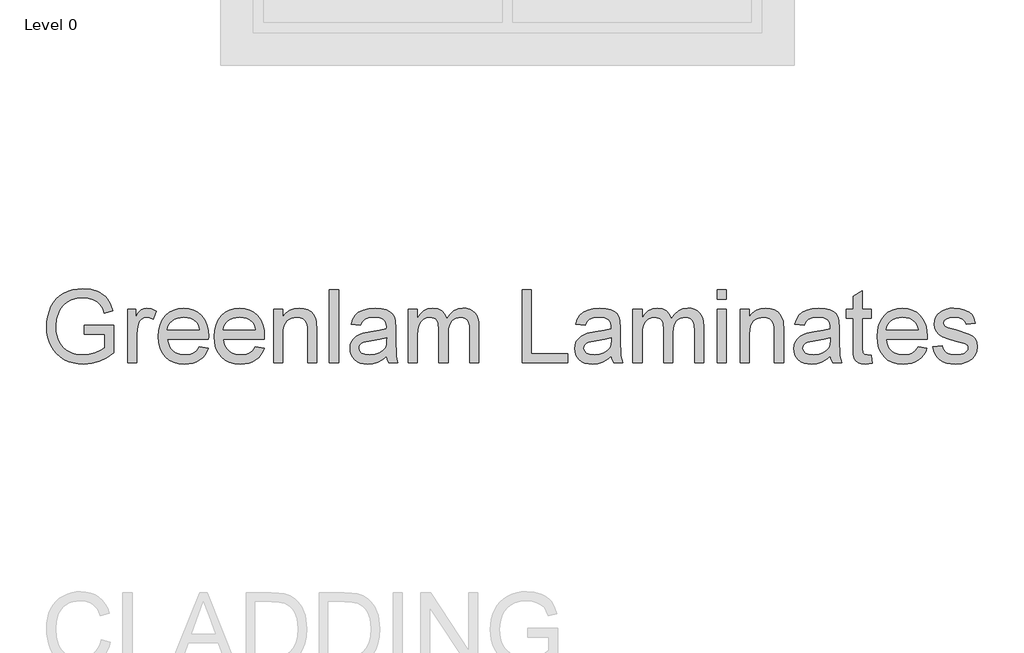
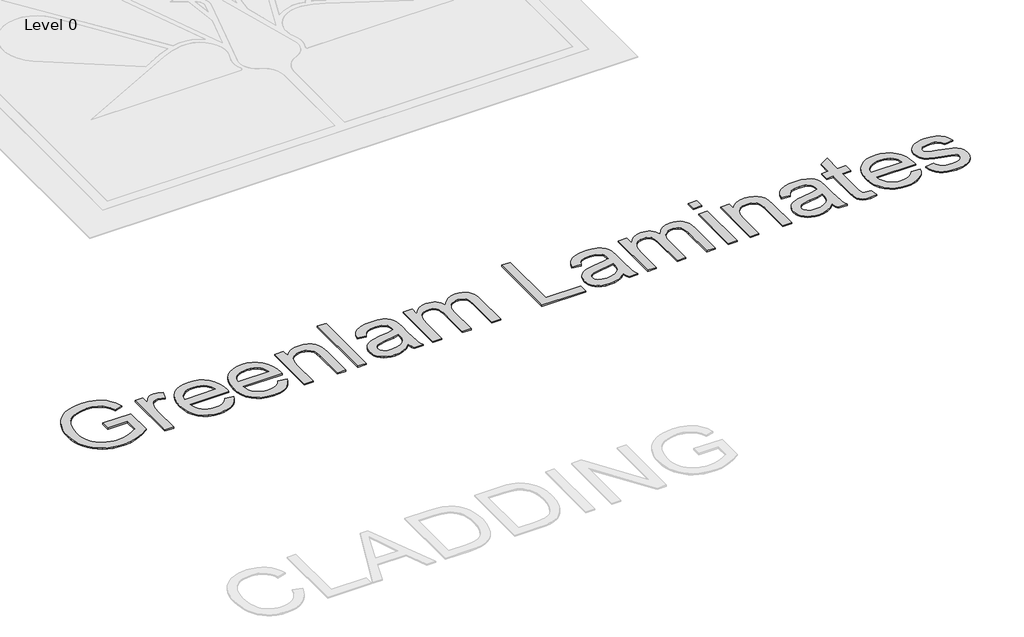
# One storey, part 8 of 8: 1 proxy.
"""IFC4 building model written with IfcOpenShell, lengths in millimetres."""

import ifcopenshell
import ifcopenshell.guid

model = None  # the IFC model being written
_history = None  # IfcOwnerHistory: only IFC2X3 demands one
_inside = {}  # id of a spatial element -> (the spatial element, [elements in it])
_under = {}  # id of a project, library or spatial element -> (it, [spatial elements below it])
_declared = {}  # id of a project -> (the project, [libraries it declares])
_typed = {}  # id of a type object -> (the type object, [elements of that type])
_made_of = {}  # id of a material, layer set ... -> (it, [elements and type objects made of it])


def new_model(schema):
    """Start an empty IFC model of exactly this schema.

    Asked for "IFC4X3", IfcOpenShell would pick the latest addendum, in which some entities
    have other attributes; the version numbers below select the first issue.
    IFC2X3 requires an IfcOwnerHistory on every rooted entity: one is made here for all.
    """
    global model, _history
    if schema == "IFC4X3":
        model = ifcopenshell.file(schema_version=(4, 3, 0, 0))
    else:
        model = ifcopenshell.file(schema=schema)
    _inside.clear()
    _under.clear()
    _declared.clear()
    _typed.clear()
    _made_of.clear()
    _history = None
    if model.schema == "IFC2X3":
        org = make("IfcOrganization", Name="unknown")
        user = make(
            "IfcPersonAndOrganization",
            ThePerson=make("IfcPerson", FamilyName="unknown"),
            TheOrganization=org,
        )
        app = make(
            "IfcApplication",
            ApplicationDeveloper=org,
            Version="unknown",
            ApplicationFullName="unknown",
            ApplicationIdentifier="unknown",
        )
        _history = make(
            "IfcOwnerHistory",
            OwningUser=user,
            OwningApplication=app,
            ChangeAction="ADDED",
            CreationDate=0,
        )
    return model


def make(cls, **values):
    """One entity of the class cls with the attributes given. An attribute that is None is left unset."""
    return model.create_entity(
        cls, **{name: value for name, value in values.items() if value is not None}
    )


def rooted(cls, **values):
    """An entity with a GlobalId (a new one), such as an element, a storey or a relation."""
    return make(cls, GlobalId=ifcopenshell.guid.new(), OwnerHistory=_history, **values)


def si_unit(unit_type, name, prefix=None):
    """IfcSIUnit, for example si_unit("LENGTHUNIT", "METRE", prefix="MILLI")."""
    return make("IfcSIUnit", UnitType=unit_type, Prefix=prefix, Name=name)


def assignment(units):
    """IfcUnitAssignment: the units of a project."""
    return None if units is None else make("IfcUnitAssignment", Units=units)


def point(xyz):
    """IfcCartesianPoint."""
    return None if xyz is None else make("IfcCartesianPoint", Coordinates=xyz)


def direction(xyz):
    """IfcDirection."""
    return None if xyz is None else make("IfcDirection", DirectionRatios=xyz)


def frame(location, z_axis=None, x_axis=None):
    """IfcAxis2Placement3D, a coordinate frame: its origin and axes. An axis left out is left unset."""
    return make(
        "IfcAxis2Placement3D",
        Location=point(location),
        Axis=direction(z_axis),
        RefDirection=direction(x_axis),
    )


def origin():
    """The frame at (0, 0, 0) with its axes left unset."""
    return frame((0.0, 0.0, 0.0))


def origin_with_axes():
    """The frame at (0, 0, 0) with the z axis (0, 0, 1) and the x axis (1, 0, 0) written out."""
    return frame((0.0, 0.0, 0.0), z_axis=(0.0, 0.0, 1.0), x_axis=(1.0, 0.0, 0.0))


def place(relative_to, where):
    """IfcLocalPlacement: puts the frame where relative to a parent placement (None: the world)."""
    return make(
        "IfcLocalPlacement", PlacementRelTo=relative_to, RelativePlacement=where
    )


def context(
    kind, dimensions, precision=None, world=None, true_north=None, identifier=None
):
    """IfcGeometricRepresentationContext, for example the 3D "Model" context."""
    return make(
        "IfcGeometricRepresentationContext",
        ContextIdentifier=identifier,
        ContextType=kind,
        CoordinateSpaceDimension=dimensions,
        Precision=precision,
        WorldCoordinateSystem=world,
        TrueNorth=true_north,
    )


def project(units=None, contexts=None):
    """IfcProject with its units and contexts."""
    return rooted(
        "IfcProject",
        Name="project",
        RepresentationContexts=contexts,
        UnitsInContext=assignment(units),
    )


def spatial(cls, under=None, at=None, **own):
    """A site, building, storey or space (cls), placed at a placement, below another one or the project."""
    s = rooted(cls, ObjectPlacement=at, **own)
    if under is not None:
        _under.setdefault(under.id(), (under, []))[1].append(s)
    return s


def polyline(points):
    """IfcPolyline through the points."""
    return make("IfcPolyline", Points=[point(p) for p in points])


def outline(outer, holes=None, kind="AREA"):
    """IfcArbitraryClosedProfileDef: a profile drawn as a closed curve; with holes, ...WithVoids."""
    if holes is None:
        return make("IfcArbitraryClosedProfileDef", ProfileType=kind, OuterCurve=outer)
    return make(
        "IfcArbitraryProfileDefWithVoids",
        ProfileType=kind,
        OuterCurve=outer,
        InnerCurves=holes,
    )


def extrude(swept, where, along, depth):
    """IfcExtrudedAreaSolid: the profile swept, set in the frame where, extruded along a direction by depth."""
    return make(
        "IfcExtrudedAreaSolid",
        SweptArea=swept,
        Position=where,
        ExtrudedDirection=direction(along),
        Depth=depth,
    )


def shape(context_of_items, identifier, shape_type, items):
    """IfcShapeRepresentation: the items that make up one representation, for example the "Body"."""
    return make(
        "IfcShapeRepresentation",
        ContextOfItems=context_of_items,
        RepresentationIdentifier=identifier,
        RepresentationType=shape_type,
        Items=items,
    )


def made_of(thing, what):
    """Note that an element or type object is made of a material, layer set ...; save() writes the relation."""
    if what is not None:
        _made_of.setdefault(what.id(), (what, []))[1].append(thing)
    return thing


def element(
    cls,
    number,
    at=None,
    inside=None,
    cuts=None,
    type_object=None,
    material=None,
    context=None,
    identifier="Body",
    shape_type=None,
    held_by="IfcProductDefinitionShape",
    body=None,
    shapes=None,
    **own,
):
    """One element of the class cls, such as IfcWall. Its Tag is "e" and its number.

    at: its placement. inside: the storey or other place that contains it. cuts: it is an
    opening in that element (IfcRelVoidsElement). A single representation is given by context,
    identifier, shape_type and body (its items); several are given by shapes. held_by: the class
    of the entity that holds the representations. save() writes the other relations.
    """
    e = rooted(cls, Tag="e%d" % number, ObjectPlacement=at, **own)
    if body is not None:
        shapes = [shape(context, identifier, shape_type, body)]
    if shapes is not None:
        e.Representation = make(held_by, Representations=shapes)
    if inside is not None:
        _inside.setdefault(inside.id(), (inside, []))[1].append(e)
    if cuts is not None:
        rooted(
            "IfcRelVoidsElement", RelatingBuildingElement=cuts, RelatedOpeningElement=e
        )
    if type_object is not None:
        _typed.setdefault(type_object.id(), (type_object, []))[1].append(e)
    return made_of(e, material)


def aggregate(whole, parts):
    """IfcRelAggregates: a whole, such as a stair, and the parts it consists of."""
    return rooted("IfcRelAggregates", RelatingObject=whole, RelatedObjects=parts)


def save(model, path):
    """Write the relations noted so far, then the file.

    IfcRelAggregates (storeys below a building ...), IfcRelContainedInSpatialStructure (elements
    in a storey), IfcRelDefinesByType, IfcRelAssociatesMaterial and IfcRelDeclares: one each for
    every whole, place, type object, material and project.
    """
    for whole, parts in _under.values():
        aggregate(whole, parts)
    for where, things in _inside.values():
        rooted(
            "IfcRelContainedInSpatialStructure",
            RelatedElements=things,
            RelatingStructure=where,
        )
    for kind, things in _typed.values():
        rooted("IfcRelDefinesByType", RelatedObjects=things, RelatingType=kind)
    for what, things in _made_of.values():
        rooted("IfcRelAssociatesMaterial", RelatedObjects=things, RelatingMaterial=what)
    for by, libraries in _declared.values():
        rooted("IfcRelDeclares", RelatingContext=by, RelatedDefinitions=libraries)
    model.write(path)


model = new_model("IFC4")

# Units and contexts
model_context = context("Model", 3, world=origin())
ifc_project = project(units=[si_unit("LENGTHUNIT", "METRE", prefix="MILLI")], contexts=[model_context])

# Site, building, storey
site = spatial("IfcSite", under=ifc_project)
building = spatial("IfcBuilding", under=site)
storey = spatial("IfcBuildingStorey", under=building, Name="Level 0", Elevation=0.0)

# Proxy
placement = place(None, origin())
element("IfcBuildingElementProxy", 1, Name="600mm Arial", ObjectType="600mm Arial", at=placement, inside=storey, context=model_context, shape_type="SweptSolid", body=[
    extrude(outline(polyline([(-10594.9298129, 2995.5724296), (-10594.9298129, 3070.9146622), (-10350.067557, 3070.9146622), (-10350.067557, 2845.6237284), (-10409.5724697, 2804.2370039), (-10470.9535806, 2774.5489269), (-10534.0637368, 2756.6698619), (-10598.7557857, 2750.7101736), (-10642.0325039, 2753.0784139), (-10683.2766741, 2760.183135), (-10722.4882962, 2772.0243367), (-10759.6673704, 2788.6020191), (-10793.6136815, 2809.6678618), (-10823.1270146, 2834.9735446), (-10848.2073696, 2864.5190673), (-10868.8547466, 2898.3044301), (-10884.9817735, 2935.2489794), (-10896.5010785, 2974.2720621), (-10903.4126615, 3015.373678), (-10905.7165225, 3058.5538272), (-10903.4218585, 3101.7385749), (-10896.5378667, 3143.4425975), (-10885.064547, 3183.6658952), (-10869.0018994, 3222.4084678), (-10848.6350324, 3257.9688612), (-10824.2490546, 3288.645621), (-10795.8439661, 3314.4387474), (-10763.4197667, 3335.3482403), (-10727.6800309, 3351.507457), (-10689.3283329, 3363.0497546), (-10648.3646727, 3369.9751331), (-10604.7890504, 3372.2835926), (-10542.7273578, 3366.9309096), (-10486.9196592, 3350.8728605), (-10462.0002525, 3339.1190308), (-10439.9227343, 3325.2682737), (-10420.6871045, 3309.3205892), (-10404.293363, 3291.2759773), (-10377.9346181, 3247.2588966), (-10358.749572, 3191.5799566), (-10428.2056927, 3172.0086345), (-10443.7119188, 3211.7214959), (-10462.5658711, 3241.6854844), (-10487.5082704, 3264.2734389), (-10521.2798375, 3281.8581982), (-10561.5445219, 3293.1705696), (-10605.9662728, 3296.94136), (-10657.9663928, 3292.876264), (-10702.4249319, 3280.6809758), (-10739.1763433, 3261.8822059), (-10768.0550799, 3238.0066644), (-10790.2199701, 3210.2867561), (-10806.8298422, 3179.9548856), (-10824.4881779, 3123.0803291), (-10830.3742899, 3061.6440359), (-10828.6038578, 3024.0235034), (-10823.2925615, 2989.5943472), (-10814.4404009, 2958.3565672), (-10802.0473762, 2930.3101636), (-10786.2744357, 2905.5609024), (-10767.2825277, 2884.2145496), (-10745.0716522, 2866.2711053), (-10719.6418093, 2851.7305695), (-10692.1840169, 2840.496373), (-10663.8892929, 2832.471947), (-10634.7576374, 2827.6572914), (-10604.7890504, 2826.0524062), (-10552.6049894, 2830.8900544), (-10501.7085154, 2845.4029992), (-10457.5074936, 2865.3973856), (-10425.4097896, 2886.679359), (-10425.4097896, 2995.5724296), (-10594.9298129, 2995.5724296)])), origin_with_axes(), (0.0, 0.0, 1.0), 10.0),
    extrude(outline(polyline([(-10237.054208, 2760.1279527), (-10237.054208, 3202.7635693), (-10171.1297545, 3202.7635693), (-10171.1297545, 3137.2805741), (-10146.7759664, 3175.245996), (-10124.3351647, 3197.6132213), (-10101.8207866, 3208.5393166), (-10077.2462693, 3212.1813483), (-10039.7223058, 3206.3688128), (-10001.6097311, 3188.9312062), (-10026.7728596, 3121.3880719), (-10053.2603632, 3132.9763548), (-10079.7478669, 3136.8391157), (-10102.2438509, 3133.1235076), (-10122.3486019, 3121.9766831), (-10138.590592, 3104.244771), (-10149.4982932, 3080.7738997), (-10158.6585549, 3038.6881994), (-10161.7119754, 2992.7765264), (-10161.7119754, 2760.1279527), (-10237.054208, 2760.1279527)])), origin_with_axes(), (0.0, 0.0, 1.0), 10.0),
    extrude(outline(polyline([(-9644.617043, 2891.9768597), (-9570.7463384, 2882.5590807), (-9582.0725053, 2852.9721712), (-9597.3626007, 2826.8985348), (-9616.6166246, 2804.3381714), (-9639.8345771, 2785.2910811), (-9666.7773347, 2770.1619341), (-9697.2057742, 2759.3554005), (-9731.1198956, 2752.8714803), (-9768.519699, 2750.7101736), (-9815.2683035, 2754.4395773), (-9856.9217424, 2765.6277885), (-9893.4800157, 2784.2748071), (-9924.9431233, 2810.3806332), (-9950.2442075, 2843.2186998), (-9968.3164106, 2882.06244), (-9979.1597324, 2926.9118537), (-9982.774173, 2977.766941), (-9979.1229442, 3030.3464752), (-9968.1692578, 3076.6904095), (-9949.9131138, 3116.798744), (-9924.3545121, 3150.6714788), (-9892.9741779, 3177.5820467), (-9857.2528362, 3196.8038809), (-9817.1904869, 3208.3369815), (-9772.7871301, 3212.1813483), (-9729.8139146, 3208.3461785), (-9690.9517803, 3196.8406691), (-9656.2007273, 3177.6648201), (-9625.5607557, 3150.8186315), (-9600.5493785, 3117.0194732), (-9582.6841091, 3076.9847151), (-9571.9649475, 3030.7143572), (-9568.3918936, 2978.2083994), (-9568.833352, 2957.9013133), (-9907.4319404, 2957.9013133), (-9903.0679402, 2927.8361572), (-9894.3905236, 2901.5050034), (-9881.3996907, 2878.9078519), (-9864.0954413, 2860.0447026), (-9843.4342688, 2845.1730729), (-9820.3726662, 2834.5504803), (-9794.9106336, 2828.1769247), (-9767.048171, 2826.0524062), (-9726.9490335, 2829.9887436), (-9693.1774664, 2841.7977556), (-9665.7334695, 2862.2152063), (-9644.617043, 2891.9768597)]), holes=[polyline([(-9907.4319404, 3033.2435459), (-9643.7341262, 3033.2435459), (-9653.9244575, 3073.0483778), (-9662.689246, 3088.7017567), (-9673.9004498, 3101.5224442), (-9694.4466593, 3116.973488), (-9717.82556, 3128.0099478), (-9744.0371522, 3134.6318238), (-9773.0814357, 3136.8391157), (-9799.5735379, 3135.0778807), (-9823.8675452, 3129.7941755), (-9845.9634575, 3120.9880003), (-9865.8612749, 3108.6593549), (-9882.558519, 3093.3784565), (-9895.0527112, 3075.7155222), (-9903.3438517, 3055.670552), (-9907.4319404, 3033.2435459)])]), origin_with_axes(), (0.0, 0.0, 1.0), 10.0),
    extrude(outline(polyline([(-9183.1458683, 2891.9768597), (-9109.2751636, 2882.5590807), (-9120.6013305, 2852.9721712), (-9135.891426, 2826.8985348), (-9155.1454499, 2804.3381714), (-9178.3634023, 2785.2910811), (-9205.3061599, 2770.1619341), (-9235.7345995, 2759.3554005), (-9269.6487209, 2752.8714803), (-9307.0485242, 2750.7101736), (-9353.7971288, 2754.4395773), (-9395.4505677, 2765.6277885), (-9432.0088409, 2784.2748071), (-9463.4719486, 2810.3806332), (-9488.7730328, 2843.2186998), (-9506.8452358, 2882.06244), (-9517.6885576, 2926.9118537), (-9521.3029982, 2977.766941), (-9517.6517694, 3030.3464752), (-9506.698083, 3076.6904095), (-9488.441939, 3116.798744), (-9462.8833374, 3150.6714788), (-9431.5030032, 3177.5820467), (-9395.7816615, 3196.8038809), (-9355.7193122, 3208.3369815), (-9311.3159554, 3212.1813483), (-9268.3427398, 3208.3461785), (-9229.4806055, 3196.8406691), (-9194.7295526, 3177.6648201), (-9164.0895809, 3150.8186315), (-9139.0782038, 3117.0194732), (-9121.2129344, 3076.9847151), (-9110.4937727, 3030.7143572), (-9106.9207189, 2978.2083994), (-9107.3621772, 2957.9013133), (-9445.9607656, 2957.9013133), (-9441.5967654, 2927.8361572), (-9432.9193489, 2901.5050034), (-9419.9285159, 2878.9078519), (-9402.6242666, 2860.0447026), (-9381.963094, 2845.1730729), (-9358.9014915, 2834.5504803), (-9333.4394589, 2828.1769247), (-9305.5769962, 2826.0524062), (-9265.4778588, 2829.9887436), (-9231.7062916, 2841.7977556), (-9204.2622948, 2862.2152063), (-9183.1458683, 2891.9768597)]), holes=[polyline([(-9445.9607656, 3033.2435459), (-9182.2629515, 3033.2435459), (-9192.4532827, 3073.0483778), (-9201.2180713, 3088.7017567), (-9212.4292751, 3101.5224442), (-9232.9754845, 3116.973488), (-9256.3543853, 3128.0099478), (-9282.5659775, 3134.6318238), (-9311.610261, 3136.8391157), (-9338.1023631, 3135.0778807), (-9362.3963704, 3129.7941755), (-9384.4922827, 3120.9880003), (-9404.3901002, 3108.6593549), (-9421.0873442, 3093.3784565), (-9433.5815365, 3075.7155222), (-9441.8726769, 3055.670552), (-9445.9607656, 3033.2435459)])]), origin_with_axes(), (0.0, 0.0, 1.0), 10.0),
    extrude(outline(polyline([(-9031.5784862, 2760.1279527), (-9031.5784862, 3202.7635693), (-8956.2362536, 3202.7635693), (-8956.2362536, 3140.9593941), (-8930.0614497, 3172.1189991), (-8898.6259332, 3194.3758598), (-8861.9297042, 3207.7299762), (-8819.9727626, 3212.1813483), (-8782.8350752, 3208.5944989), (-8748.8243847, 3197.8339505), (-8720.4606829, 3181.2424725), (-8700.2639614, 3160.1628342), (-8686.5603571, 3134.6502179), (-8677.6760069, 3104.7598058), (-8673.7028813, 3031.9191707), (-8673.7028813, 2760.1279527), (-8749.0451139, 2760.1279527), (-8749.0451139, 3021.7656276), (-8751.2156177, 3060.7243309), (-8757.727129, 3088.4258452), (-8769.7384762, 3108.2730788), (-8788.4084874, 3123.6689403), (-8812.3392112, 3133.5465719), (-8840.132696, 3136.8391157), (-8863.0103575, 3134.9905087), (-8884.2601413, 3129.4446876), (-8903.8820472, 3120.2016525), (-8921.8760753, 3107.2614033), (-8936.9086533, 3089.1524121), (-8947.646209, 3064.4031509), (-8954.0887425, 3033.0136196), (-8956.2362536, 2994.9838184), (-8956.2362536, 2760.1279527), (-9031.5784862, 2760.1279527)])), origin_with_axes(), (0.0, 0.0, 1.0), 10.0),
    extrude(outline(polyline([(-8570.1073115, 2760.1279527), (-8570.1073115, 3362.8658136), (-8494.7650789, 3362.8658136), (-8494.7650789, 2760.1279527), (-8570.1073115, 2760.1279527)])), origin_with_axes(), (0.0, 0.0, 1.0), 10.0),
    extrude(outline(polyline([(-8099.2183577, 2816.6346271), (-8135.2156109, 2785.7693277), (-8172.2797219, 2765.5726062), (-8211.2568193, 2754.4257817), (-8252.9930316, 2750.7101736), (-8286.5392711, 2752.9450567), (-8315.9560351, 2759.6497061), (-8341.2433238, 2770.8241217), (-8362.401137, 2786.4683035), (-8379.1075781, 2805.5889702), (-8391.0407503, 2827.1928404), (-8398.2006537, 2851.279914), (-8400.5872881, 2877.8501911), (-8396.9820446, 2909.0833725), (-8386.1663139, 2937.4470743), (-8369.4828654, 2961.727286), (-8348.2744684, 2980.709997), (-8323.3504632, 2995.0573948), (-8295.5201903, 3005.4316671), (-8230.3315007, 3016.7624325), (-8153.297011, 3028.6818092), (-8099.6598161, 3042.661325), (-8099.2183577, 3059.4367439), (-8104.4054938, 3093.0611583), (-8110.889414, 3105.5139638), (-8119.9669022, 3115.0605016), (-8135.6570693, 3124.5886453), (-8154.7685389, 3131.3944622), (-8203.2553859, 3136.8391157), (-8248.1369893, 3133.2154781), (-8279.4805353, 3122.3445651), (-8300.8544792, 3102.2398141), (-8315.8272764, 3070.9146622), (-8391.169509, 3080.3324413), (-8378.0913041, 3121.5352247), (-8358.5751643, 3153.9088403), (-8330.8000736, 3178.6672986), (-8292.9450163, 3197.0246101), (-8246.6470672, 3208.3921638), (-8193.5433012, 3212.1813483), (-8142.610039, 3208.8336222), (-8102.23499, 3198.7904437), (-8071.7927549, 3183.6888878), (-8050.6579343, 3165.1660294), (-8036.6416303, 3142.2653752), (-8027.554945, 3114.030432), (-8023.8761251, 3048.1059785), (-8023.8761251, 2954.3696461), (-8020.0501523, 2823.4772322), (-8014.3847696, 2791.1220108), (-8005.0405669, 2760.1279527), (-8080.3827995, 2760.1279527), (-8092.449329, 2786.3211507), (-8099.2183577, 2816.6346271)]), holes=[polyline([(-8099.2183577, 2967.3190924), (-8149.8389202, 2954.7743163), (-8220.7665689, 2944.2161031), (-8285.5873764, 2932.0024208), (-8302.4547659, 2923.6514995), (-8314.9443596, 2912.1367931), (-8322.6698815, 2898.3412183), (-8325.2450555, 2883.1476919), (-8319.6348551, 2860.7436784), (-8302.8042538, 2842.3863668), (-8275.1211337, 2830.1358964), (-8236.9533767, 2826.0524062), (-8196.4863572, 2830.5589606), (-8160.7282273, 2844.078624), (-8131.739126, 2863.999434), (-8111.5791927, 2887.7094286), (-8102.6396602, 2912.1367931), (-8099.6598161, 2945.9819366), (-8099.2183577, 2967.3190924)])]), origin_with_axes(), (0.0, 0.0, 1.0), 10.0),
    extrude(outline(polyline([(-7920.2805552, 2760.1279527), (-7920.2805552, 3202.7635693), (-7844.9383226, 3202.7635693), (-7844.9383226, 3129.9229342), (-7822.2767917, 3163.3818017), (-7793.1405377, 3189.5933938), (-7758.5228419, 3206.5343597), (-7719.4169858, 3212.1813483), (-7677.5152266, 3206.4239951), (-7659.6821469, 3199.2273036), (-7643.9276004, 3189.1519354), (-7618.8380484, 3161.5056035), (-7602.4305114, 3124.6254335), (-7574.9681204, 3162.9311462), (-7543.6429685, 3190.2923696), (-7508.4550557, 3206.7091037), (-7469.4043819, 3212.1813483), (-7439.2426568, 3209.9050785), (-7412.7689488, 3203.076269), (-7389.9832577, 3191.6949197), (-7370.8855836, 3175.7610308), (-7355.7886262, 3155.0906612), (-7345.0050853, 3129.4998699), (-7338.5349607, 3098.988657), (-7336.3782525, 3063.5570223), (-7336.3782525, 2760.1279527), (-7411.7204851, 2760.1279527), (-7411.7204851, 3031.1834067), (-7413.4679246, 3068.7625525), (-7418.710243, 3094.0912279), (-7428.5326923, 3111.436864), (-7444.0205243, 3125.0668919), (-7463.9413343, 3133.8960598), (-7487.0627177, 3136.8391157), (-7508.413669, 3134.9537205), (-7527.8792251, 3129.2975348), (-7545.4593859, 3119.8705587), (-7561.1541515, 3106.6727921), (-7574.062211, 3089.317959), (-7583.2822535, 3067.4197832), (-7588.814279, 3040.9782648), (-7590.6582875, 3009.9934038), (-7590.6582875, 2760.1279527), (-7666.0005201, 2760.1279527), (-7666.0005201, 3039.5711162), (-7670.3599218, 3082.1718512), (-7675.8091738, 3098.8920879), (-7683.4381267, 3112.5589041), (-7693.5502831, 3123.1814967), (-7706.4491455, 3130.7690628), (-7722.1347141, 3135.3216025), (-7740.6069888, 3136.8391157), (-7769.6328782, 3132.7924138), (-7796.3778992, 3120.6523079), (-7818.4508189, 3100.7131038), (-7833.4604044, 3073.269107), (-7842.068843, 3035.1933205), (-7844.9383226, 2983.3587473), (-7844.9383226, 2760.1279527), (-7920.2805552, 2760.1279527)])), origin_with_axes(), (0.0, 0.0, 1.0), 10.0),
    extrude(outline(polyline([(-6978.5026476, 2760.1279527), (-6978.5026476, 3362.8658136), (-6903.1604149, 3362.8658136), (-6903.1604149, 2835.4701853), (-6601.7914845, 2835.4701853), (-6601.7914845, 2760.1279527), (-6978.5026476, 2760.1279527)])), origin_with_axes(), (0.0, 0.0, 1.0), 10.0),
    extrude(outline(polyline([(-6243.9158796, 2816.6346271), (-6279.9131328, 2785.7693277), (-6316.9772438, 2765.5726062), (-6355.9543412, 2754.4257817), (-6397.6905536, 2750.7101736), (-6431.236793, 2752.9450567), (-6460.653557, 2759.6497061), (-6485.9408457, 2770.8241217), (-6507.0986589, 2786.4683035), (-6523.8051, 2805.5889702), (-6535.7382723, 2827.1928404), (-6542.8981756, 2851.279914), (-6545.28481, 2877.8501911), (-6541.6795665, 2909.0833725), (-6530.8638358, 2937.4470743), (-6514.1803873, 2961.727286), (-6492.9719903, 2980.709997), (-6468.0479852, 2995.0573948), (-6440.2177122, 3005.4316671), (-6375.0290227, 3016.7624325), (-6297.9945329, 3028.6818092), (-6244.357338, 3042.661325), (-6243.9158796, 3059.4367439), (-6249.1030157, 3093.0611583), (-6255.5869359, 3105.5139638), (-6264.6644241, 3115.0605016), (-6280.3545912, 3124.5886453), (-6299.4660609, 3131.3944622), (-6347.9529078, 3136.8391157), (-6392.8345112, 3133.2154781), (-6424.1780572, 3122.3445651), (-6445.5520011, 3102.2398141), (-6460.5247984, 3070.9146622), (-6535.867031, 3080.3324413), (-6522.788826, 3121.5352247), (-6503.2726862, 3153.9088403), (-6475.4975956, 3178.6672986), (-6437.6425383, 3197.0246101), (-6391.3445892, 3208.3921638), (-6338.2408232, 3212.1813483), (-6287.3075609, 3208.8336222), (-6246.932512, 3198.7904437), (-6216.4902768, 3183.6888878), (-6195.3554562, 3165.1660294), (-6181.3391522, 3142.2653752), (-6172.2524669, 3114.030432), (-6168.573647, 3048.1059785), (-6168.573647, 2954.3696461), (-6164.7476742, 2823.4772322), (-6159.0822915, 2791.1220108), (-6149.7380888, 2760.1279527), (-6225.0803214, 2760.1279527), (-6237.1468509, 2786.3211507), (-6243.9158796, 2816.6346271)]), holes=[polyline([(-6243.9158796, 2967.3190924), (-6294.5364421, 2954.7743163), (-6365.4640908, 2944.2161031), (-6430.2848983, 2932.0024208), (-6447.1522878, 2923.6514995), (-6459.6418816, 2912.1367931), (-6467.3674035, 2898.3412183), (-6469.9425774, 2883.1476919), (-6464.332377, 2860.7436784), (-6447.5017757, 2842.3863668), (-6419.8186556, 2830.1358964), (-6381.6508986, 2826.0524062), (-6341.1838791, 2830.5589606), (-6305.4257492, 2844.078624), (-6276.436648, 2863.999434), (-6256.2767146, 2887.7094286), (-6247.3371821, 2912.1367931), (-6244.357338, 2945.9819366), (-6243.9158796, 2967.3190924)])]), origin_with_axes(), (0.0, 0.0, 1.0), 10.0),
    extrude(outline(polyline([(-6064.9780771, 2760.1279527), (-6064.9780771, 3202.7635693), (-5989.6358445, 3202.7635693), (-5989.6358445, 3129.9229342), (-5966.9743136, 3163.3818017), (-5937.8380596, 3189.5933938), (-5903.2203639, 3206.5343597), (-5864.1145078, 3212.1813483), (-5822.2127485, 3206.4239951), (-5804.3796688, 3199.2273036), (-5788.6251224, 3189.1519354), (-5763.5355703, 3161.5056035), (-5747.1280333, 3124.6254335), (-5719.6656424, 3162.9311462), (-5688.3404905, 3190.2923696), (-5653.1525776, 3206.7091037), (-5614.1019038, 3212.1813483), (-5583.9401788, 3209.9050785), (-5557.4664707, 3203.076269), (-5534.6807796, 3191.6949197), (-5515.5831055, 3175.7610308), (-5500.4861482, 3155.0906612), (-5489.7026072, 3129.4998699), (-5483.2324826, 3098.988657), (-5481.0757744, 3063.5570223), (-5481.0757744, 2760.1279527), (-5556.418007, 2760.1279527), (-5556.418007, 3031.1834067), (-5558.1654465, 3068.7625525), (-5563.4077649, 3094.0912279), (-5573.2302142, 3111.436864), (-5588.7180462, 3125.0668919), (-5608.6388562, 3133.8960598), (-5631.7602396, 3136.8391157), (-5653.1111909, 3134.9537205), (-5672.576747, 3129.2975348), (-5690.1569078, 3119.8705587), (-5705.8516734, 3106.6727921), (-5718.759733, 3089.317959), (-5727.9797755, 3067.4197832), (-5733.511801, 3040.9782648), (-5735.3558095, 3009.9934038), (-5735.3558095, 2760.1279527), (-5810.6980421, 2760.1279527), (-5810.6980421, 3039.5711162), (-5815.0574437, 3082.1718512), (-5820.5066958, 3098.8920879), (-5828.1356486, 3112.5589041), (-5838.247805, 3123.1814967), (-5851.1466674, 3130.7690628), (-5866.832236, 3135.3216025), (-5885.3045107, 3136.8391157), (-5914.3304001, 3132.7924138), (-5941.0754212, 3120.6523079), (-5963.1483409, 3100.7131038), (-5978.1579263, 3073.269107), (-5986.766365, 3035.1933205), (-5989.6358445, 2983.3587473), (-5989.6358445, 2760.1279527), (-6064.9780771, 2760.1279527)])), origin_with_axes(), (0.0, 0.0, 1.0), 10.0),
    extrude(outline(polyline([(-5368.0624255, 3287.523581), (-5368.0624255, 3362.8658136), (-5292.7201929, 3362.8658136), (-5292.7201929, 3287.523581), (-5368.0624255, 3287.523581)])), origin_with_axes(), (0.0, 0.0, 1.0), 10.0),
    extrude(outline(polyline([(-5368.0624255, 2760.1279527), (-5368.0624255, 3202.7635693), (-5292.7201929, 3202.7635693), (-5292.7201929, 2760.1279527), (-5368.0624255, 2760.1279527)])), origin_with_axes(), (0.0, 0.0, 1.0), 10.0),
    extrude(outline(polyline([(-5179.7068439, 2760.1279527), (-5179.7068439, 3202.7635693), (-5104.3646113, 3202.7635693), (-5104.3646113, 3140.9593941), (-5078.1898074, 3172.1189991), (-5046.7542909, 3194.3758598), (-5010.0580619, 3207.7299762), (-4968.1011203, 3212.1813483), (-4930.9634329, 3208.5944989), (-4896.9527424, 3197.8339505), (-4868.5890406, 3181.2424725), (-4848.3923191, 3160.1628342), (-4834.6887148, 3134.6502179), (-4825.8043646, 3104.7598058), (-4821.831239, 3031.9191707), (-4821.831239, 2760.1279527), (-4897.1734716, 2760.1279527), (-4897.1734716, 3021.7656276), (-4899.3439754, 3060.7243309), (-4905.8554867, 3088.4258452), (-4917.8668339, 3108.2730788), (-4936.5368451, 3123.6689403), (-4960.4675689, 3133.5465719), (-4988.2610537, 3136.8391157), (-5011.1387152, 3134.9905087), (-5032.388499, 3129.4446876), (-5052.0104049, 3120.2016525), (-5070.004433, 3107.2614033), (-5085.037011, 3089.1524121), (-5095.7745667, 3064.4031509), (-5102.2171002, 3033.0136196), (-5104.3646113, 2994.9838184), (-5104.3646113, 2760.1279527), (-5179.7068439, 2760.1279527)])), origin_with_axes(), (0.0, 0.0, 1.0), 10.0),
    extrude(outline(polyline([(-4435.7022969, 2816.6346271), (-4471.6995501, 2785.7693277), (-4508.7636611, 2765.5726062), (-4547.7407585, 2754.4257817), (-4589.4769709, 2750.7101736), (-4623.0232103, 2752.9450567), (-4652.4399744, 2759.6497061), (-4677.727263, 2770.8241217), (-4698.8850762, 2786.4683035), (-4715.5915174, 2805.5889702), (-4727.5246896, 2827.1928404), (-4734.6845929, 2851.279914), (-4737.0712273, 2877.8501911), (-4733.4659838, 2909.0833725), (-4722.6502531, 2937.4470743), (-4705.9668047, 2961.727286), (-4684.7584076, 2980.709997), (-4659.8344025, 2995.0573948), (-4632.0041295, 3005.4316671), (-4566.81544, 3016.7624325), (-4489.7809502, 3028.6818092), (-4436.1437553, 3042.661325), (-4435.7022969, 3059.4367439), (-4440.889433, 3093.0611583), (-4447.3733532, 3105.5139638), (-4456.4508414, 3115.0605016), (-4472.1410085, 3124.5886453), (-4491.2524782, 3131.3944622), (-4539.7393251, 3136.8391157), (-4584.6209285, 3133.2154781), (-4615.9644745, 3122.3445651), (-4637.3384185, 3102.2398141), (-4652.3112157, 3070.9146622), (-4727.6534483, 3080.3324413), (-4714.5752433, 3121.5352247), (-4695.0591035, 3153.9088403), (-4667.2840129, 3178.6672986), (-4629.4289556, 3197.0246101), (-4583.1310065, 3208.3921638), (-4530.0272405, 3212.1813483), (-4479.0939782, 3208.8336222), (-4438.7189293, 3198.7904437), (-4408.2766942, 3183.6888878), (-4387.1418735, 3165.1660294), (-4373.1255695, 3142.2653752), (-4364.0388842, 3114.030432), (-4360.3600643, 3048.1059785), (-4360.3600643, 2954.3696461), (-4356.5340915, 2823.4772322), (-4350.8687088, 2791.1220108), (-4341.5245061, 2760.1279527), (-4416.8667387, 2760.1279527), (-4428.9332682, 2786.3211507), (-4435.7022969, 2816.6346271)]), holes=[polyline([(-4435.7022969, 2967.3190924), (-4486.3228594, 2954.7743163), (-4557.2505081, 2944.2161031), (-4622.0713157, 2932.0024208), (-4638.9387051, 2923.6514995), (-4651.4282989, 2912.1367931), (-4659.1538208, 2898.3412183), (-4661.7289947, 2883.1476919), (-4656.1187943, 2860.7436784), (-4639.288193, 2842.3863668), (-4611.6050729, 2830.1358964), (-4573.4373159, 2826.0524062), (-4532.9702964, 2830.5589606), (-4497.2121665, 2844.078624), (-4468.2230653, 2863.999434), (-4448.0631319, 2887.7094286), (-4439.1235995, 2912.1367931), (-4436.1437553, 2945.9819366), (-4435.7022969, 2967.3190924)])]), origin_with_axes(), (0.0, 0.0, 1.0), 10.0),
    extrude(outline(polyline([(-4096.6622501, 2822.9621974), (-4087.2444711, 2757.9206607), (-4143.6039927, 2750.7101736), (-4179.7667929, 2753.8371706), (-4206.7325431, 2763.2181614), (-4225.7888304, 2777.6759238), (-4238.2232419, 2796.0332354), (-4245.065847, 2827.5607224), (-4247.3467154, 2881.5290111), (-4247.3467154, 3127.4213367), (-4303.8533898, 3127.4213367), (-4303.8533898, 3202.7635693), (-4247.3467154, 3202.7635693), (-4247.3467154, 3310.3322647), (-4172.0044828, 3354.6252569), (-4172.0044828, 3202.7635693), (-4096.6622501, 3202.7635693), (-4096.6622501, 3127.4213367), (-4172.0044828, 3127.4213367), (-4172.0044828, 2883.7363031), (-4168.0313572, 2844.8879644), (-4155.1554874, 2831.1291777), (-4144.2845744, 2827.3215991), (-4129.4773241, 2826.0524062), (-4096.6622501, 2822.9621974)])), origin_with_axes(), (0.0, 0.0, 1.0), 10.0),
    extrude(outline(polyline([(-3711.4162248, 2891.9768597), (-3637.5455202, 2882.5590807), (-3648.8716871, 2852.9721712), (-3664.1617825, 2826.8985348), (-3683.4158064, 2804.3381714), (-3706.6337589, 2785.2910811), (-3733.5765165, 2770.1619341), (-3764.004956, 2759.3554005), (-3797.9190774, 2752.8714803), (-3835.3188808, 2750.7101736), (-3882.0674853, 2754.4395773), (-3923.7209242, 2765.6277885), (-3960.2791975, 2784.2748071), (-3991.7423051, 2810.3806332), (-4017.0433893, 2843.2186998), (-4035.1155923, 2882.06244), (-4045.9589142, 2926.9118537), (-4049.5733548, 2977.766941), (-4045.922126, 3030.3464752), (-4034.9684396, 3076.6904095), (-4016.7122955, 3116.798744), (-3991.1536939, 3150.6714788), (-3959.7733597, 3177.5820467), (-3924.052018, 3196.8038809), (-3883.9896687, 3208.3369815), (-3839.5863119, 3212.1813483), (-3796.6130964, 3208.3461785), (-3757.7509621, 3196.8406691), (-3722.9999091, 3177.6648201), (-3692.3599374, 3150.8186315), (-3667.3485603, 3117.0194732), (-3649.4832909, 3076.9847151), (-3638.7641293, 3030.7143572), (-3635.1910754, 2978.2083994), (-3635.6325338, 2957.9013133), (-3974.2311221, 2957.9013133), (-3969.867122, 2927.8361572), (-3961.1897054, 2901.5050034), (-3948.1988725, 2878.9078519), (-3930.8946231, 2860.0447026), (-3910.2334506, 2845.1730729), (-3887.171848, 2834.5504803), (-3861.7098154, 2828.1769247), (-3833.8473528, 2826.0524062), (-3793.7482153, 2829.9887436), (-3759.9766482, 2841.7977556), (-3732.5326513, 2862.2152063), (-3711.4162248, 2891.9768597)]), holes=[polyline([(-3974.2311221, 3033.2435459), (-3710.533308, 3033.2435459), (-3720.7236393, 3073.0483778), (-3729.4884278, 3088.7017567), (-3740.6996316, 3101.5224442), (-3761.245841, 3116.973488), (-3784.6247418, 3128.0099478), (-3810.836334, 3134.6318238), (-3839.8806175, 3136.8391157), (-3866.3727197, 3135.0778807), (-3890.6667269, 3129.7941755), (-3912.7626393, 3120.9880003), (-3932.6604567, 3108.6593549), (-3949.3577007, 3093.3784565), (-3961.851893, 3075.7155222), (-3970.1430335, 3055.670552), (-3974.2311221, 3033.2435459)])]), origin_with_axes(), (0.0, 0.0, 1.0), 10.0),
    extrude(outline(polyline([(-3588.10218, 2891.9768597), (-3512.7599474, 2901.3946388), (-3508.2074077, 2884.2145496), (-3500.877359, 2869.168176), (-3490.7698011, 2856.255518), (-3477.8847343, 2845.4765756), (-3462.1853701, 2836.9785015), (-3443.6349205, 2830.9084485), (-3397.9807649, 2826.0524062), (-3352.8784323, 2830.5037783), (-3335.3488552, 2836.0679935), (-3321.1670043, 2843.8578948), (-3302.4050226, 2863.2084877), (-3297.7145271, 2874.0426125), (-3296.1510286, 2885.6492894), (-3297.7237242, 2895.8212266), (-3302.4418108, 2904.8527296), (-3321.3141571, 2919.494433), (-3349.5307061, 2929.0593649), (-3398.8636817, 2940.9787415), (-3467.6208266, 2960.8627633), (-3512.318489, 2977.8405174), (-3541.0316787, 2996.3633759), (-3561.8354056, 3020.8827109), (-3574.4721521, 3049.8350239), (-3578.6844009, 3081.6568165), (-3575.2998866, 3110.8482528), (-3565.1463435, 3137.7956089), (-3549.1434767, 3161.4320271), (-3528.2109912, 3180.6906496), (-3507.4072644, 3192.8123613), (-3480.3127554, 3202.9842985), (-3448.9876035, 3209.8820859), (-3415.4919479, 3212.1813483), (-3366.4532779, 3208.4841343), (-3323.8157547, 3197.3924921), (-3289.5291527, 3179.9916738), (-3265.5432466, 3157.3669311), (-3249.6507444, 3127.844401), (-3239.6443542, 3089.7502203), (-3314.9865868, 3080.3324413), (-3324.4963364, 3104.0424359), (-3343.3135004, 3121.9031067), (-3371.6220199, 3133.1051135), (-3409.605836, 3136.8391157), (-3452.8687586, 3133.2706604), (-3481.710707, 3122.5652943), (-3497.934303, 3107.1142505), (-3503.3421683, 3089.308762), (-3501.0980882, 3077.7204791), (-3494.3658476, 3067.382995), (-3482.8511412, 3058.149157), (-3466.2596632, 3050.7547289), (-3401.3652793, 3034.7150739), (-3290.7799515, 2999.2512495), (-3261.5701211, 2982.2918896), (-3239.423625, 2959.0785357), (-3225.4625033, 2929.5376115), (-3220.808796, 2893.5955405), (-3226.2718437, 2856.439459), (-3242.6609865, 2821.4906695), (-3269.3508253, 2791.4898928), (-3305.7159605, 2769.1778498), (-3349.6410707, 2755.3270926), (-3399.0108345, 2750.7101736), (-3439.5606274, 2752.9358597), (-3474.9784665, 2759.6129179), (-3505.2643517, 2770.7413482), (-3530.4182832, 2786.3211507), (-3550.9644926, 2806.278749), (-3567.4272119, 2830.5405665), (-3579.806441, 2859.1066035), (-3588.10218, 2891.9768597)])), origin_with_axes(), (0.0, 0.0, 1.0), 10.0),
])

save(model, "model.ifc")
